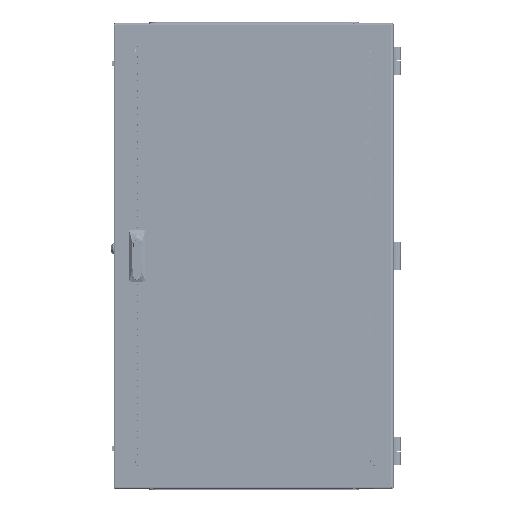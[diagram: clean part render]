
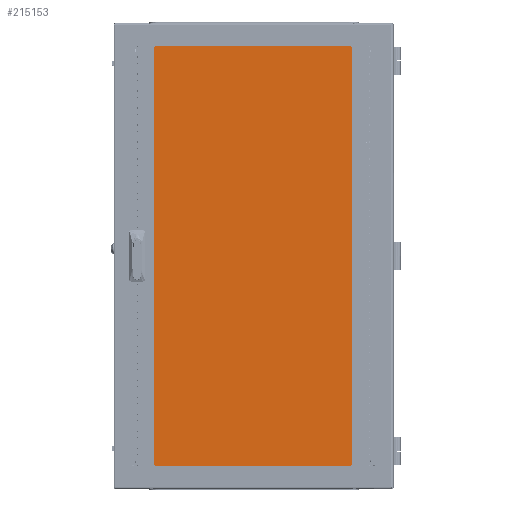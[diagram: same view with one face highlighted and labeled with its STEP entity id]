
A CAD part, top view. The second image highlights one B-rep face of the part: STEP entity #215153.
In plain terms, the highlighted planar face has unit normal (0, 0, 1) as drawn and (0, 0, -1) by its records, which use the part's own axes.
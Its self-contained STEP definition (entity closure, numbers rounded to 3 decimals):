
#9282 = DIRECTION ( 'NONE',  ( 0., -1., 0. ) ) ;
#17081 = EDGE_LOOP ( 'NONE', ( #210363, #67788, #40482, #124070 ) ) ;
#19444 = EDGE_CURVE ( 'NONE', #197512, #181372, #25731, .T. ) ;
#20439 = VECTOR ( 'NONE', #189749, 1000. ) ;
#25731 = LINE ( 'NONE', #36272, #20439 ) ;
#33191 = VECTOR ( 'NONE', #97544, 1000. ) ;
#36272 = CARTESIAN_POINT ( 'NONE',  ( -217.5, 455., 0. ) ) ;
#40482 = ORIENTED_EDGE ( 'NONE', *, *, #56906, .F. ) ;
#40955 = LINE ( 'NONE', #128482, #176936 ) ;
#56906 = EDGE_CURVE ( 'NONE', #181372, #72124, #40955, .T. ) ;
#66246 = DIRECTION ( 'NONE',  ( 0., 0., -1. ) ) ;
#67302 = VERTEX_POINT ( 'NONE', #178905 ) ;
#67788 = ORIENTED_EDGE ( 'NONE', *, *, #147691, .F. ) ;
#71573 = VECTOR ( 'NONE', #218554, 1000. ) ;
#72124 = VERTEX_POINT ( 'NONE', #89471 ) ;
#82590 = PLANE ( 'NONE',  #156085 ) ;
#89471 = CARTESIAN_POINT ( 'NONE',  ( -217.5, -455., 0. ) ) ;
#97544 = DIRECTION ( 'NONE',  ( 0., 1., 0. ) ) ;
#122271 = LINE ( 'NONE', #201420, #71573 ) ;
#124070 = ORIENTED_EDGE ( 'NONE', *, *, #19444, .F. ) ;
#128482 = CARTESIAN_POINT ( 'NONE',  ( -217.5, -455., 0. ) ) ;
#130979 = EDGE_CURVE ( 'NONE', #67302, #197512, #198470, .T. ) ;
#147691 = EDGE_CURVE ( 'NONE', #72124, #67302, #122271, .T. ) ;
#156085 = AXIS2_PLACEMENT_3D ( 'NONE', #168321, #66246, #185440 ) ;
#168321 = CARTESIAN_POINT ( 'NONE',  ( 0., 0., 0. ) ) ;
#176936 = VECTOR ( 'NONE', #9282, 1000. ) ;
#178905 = CARTESIAN_POINT ( 'NONE',  ( 217.5, -455., 0. ) ) ;
#181372 = VERTEX_POINT ( 'NONE', #195070 ) ;
#185440 = DIRECTION ( 'NONE',  ( -1., 0., 0. ) ) ;
#189749 = DIRECTION ( 'NONE',  ( -1., 0., 0. ) ) ;
#193220 = FACE_OUTER_BOUND ( 'NONE', #17081, .T. ) ;
#195070 = CARTESIAN_POINT ( 'NONE',  ( -217.5, 455., 0. ) ) ;
#195891 = CARTESIAN_POINT ( 'NONE',  ( 217.5, 455., 0. ) ) ;
#197512 = VERTEX_POINT ( 'NONE', #195891 ) ;
#198470 = LINE ( 'NONE', #216798, #33191 ) ;
#201420 = CARTESIAN_POINT ( 'NONE',  ( -217.5, -455., 0. ) ) ;
#210363 = ORIENTED_EDGE ( 'NONE', *, *, #130979, .F. ) ;
#215153 = ADVANCED_FACE ( 'NONE', ( #193220 ), #82590, .T. ) ;
#216798 = CARTESIAN_POINT ( 'NONE',  ( 217.5, -455., 0. ) ) ;
#218554 = DIRECTION ( 'NONE',  ( 1., 0., 0. ) ) ;
